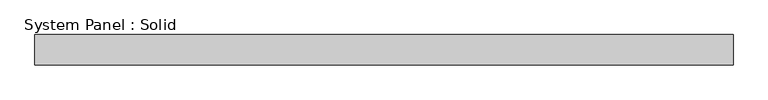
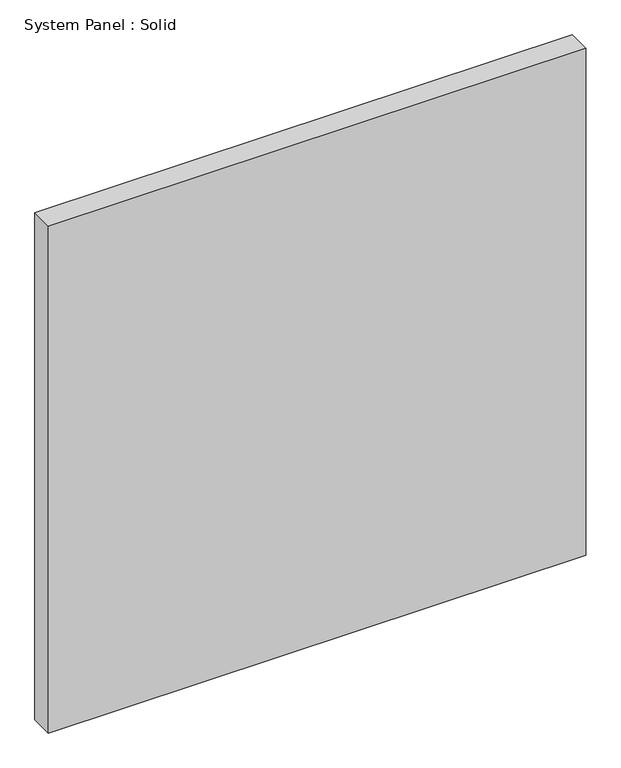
"""IFC4 building model written with IfcOpenShell, lengths in millimetres: plate geometry, System Panel : Solid."""

from ifc_helpers import new_model, si_unit, origin, origin_with_axes, place, context, project, spatial, polyline, outline, extrude, source, transform, mapped, element, save


def system_panel_solid_93f43095(model_context):
    return source(origin(), model_context, "Body", "SweptSolid", [
        extrude(outline(polyline([(733.4250002, -19.05), (-733.4250002, -19.05), (-733.4250002, 44.45), (733.4250002, 44.45), (733.4250002, -19.05)])), origin_with_axes(), (0.0, 0.0, 1.0), 1462.6166667),
    ])


if __name__ == "__main__":
    model = new_model("IFC4")
    model_context = context("Model", 3, world=origin())
    ifc_project = project(units=[si_unit("LENGTHUNIT", "METRE", prefix="MILLI")], contexts=[model_context])
    site = spatial("IfcSite", under=ifc_project)
    building = spatial("IfcBuilding", under=site)
    placement = place(None, origin())
    system_panel_solid_shape = system_panel_solid_93f43095(model_context)
    element("IfcPlate", 1, ObjectType="System Panel : Solid", at=placement, inside=building, context=model_context, shape_type="MappedRepresentation", body=[
        mapped(system_panel_solid_shape, transform((0.0, 0.0, 0.0), x_axis=(1.0, 0.0, 0.0), y_axis=(0.0, 1.0, 0.0), z_axis=(0.0, 0.0, 1.0))),
    ])
    save(model, "model.ifc")
